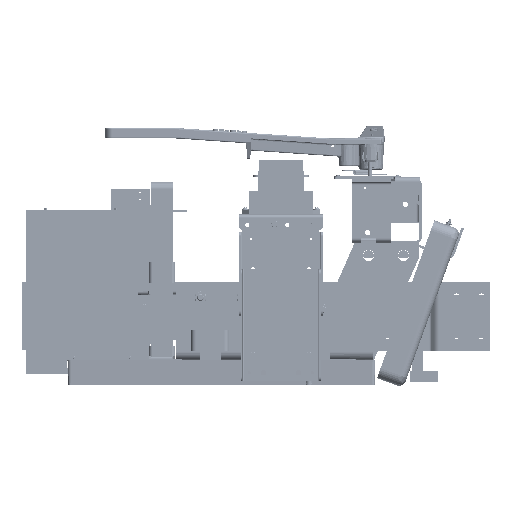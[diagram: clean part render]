
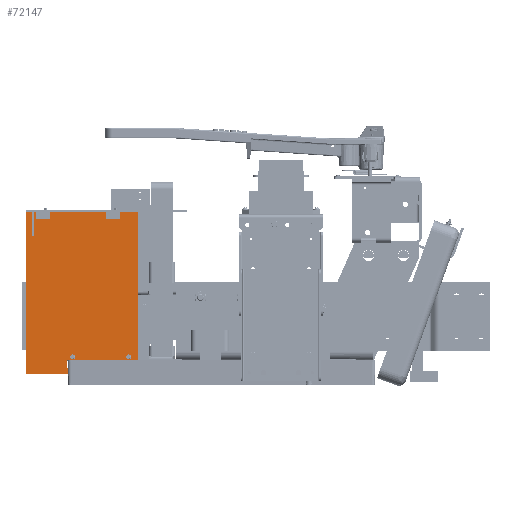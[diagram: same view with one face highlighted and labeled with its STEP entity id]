
A CAD part, left-side view. The second image highlights one B-rep face of the part: STEP entity #72147.
In plain terms, the highlighted planar face has unit normal (-1, 0, 0) as drawn and (0, 0, -1) by its records, which use the part's own axes.
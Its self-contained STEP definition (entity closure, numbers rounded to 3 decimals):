
#3792=FACE_BOUND('',#15250,.T.);
#3793=FACE_BOUND('',#15251,.T.);
#3794=FACE_BOUND('',#15252,.T.);
#3795=FACE_BOUND('',#15253,.T.);
#5844=CIRCLE('',#79320,0.097);
#5846=CIRCLE('',#79323,0.097);
#5848=CIRCLE('',#79326,0.097);
#5850=CIRCLE('',#79329,0.097);
#10712=FACE_OUTER_BOUND('',#15249,.T.);
#15249=EDGE_LOOP('',(#58011,#58012,#58013,#58014,#58015,#58016,#58017,#58018,
#58019,#58020,#58021,#58022));
#15250=EDGE_LOOP('',(#58023));
#15251=EDGE_LOOP('',(#58024));
#15252=EDGE_LOOP('',(#58025));
#15253=EDGE_LOOP('',(#58026));
#21061=LINE('',#121247,#27300);
#21065=LINE('',#121255,#27304);
#21068=LINE('',#121261,#27307);
#21071=LINE('',#121267,#27310);
#21074=LINE('',#121273,#27313);
#21077=LINE('',#121279,#27316);
#21080=LINE('',#121285,#27319);
#21083=LINE('',#121291,#27322);
#21086=LINE('',#121297,#27325);
#21089=LINE('',#121303,#27328);
#21092=LINE('',#121309,#27331);
#21095=LINE('',#121314,#27334);
#27300=VECTOR('',#93694,0.394);
#27304=VECTOR('',#93700,0.394);
#27307=VECTOR('',#93705,0.394);
#27310=VECTOR('',#93710,0.394);
#27313=VECTOR('',#93715,0.394);
#27316=VECTOR('',#93720,0.394);
#27319=VECTOR('',#93725,0.394);
#27322=VECTOR('',#93730,0.394);
#27325=VECTOR('',#93735,0.394);
#27328=VECTOR('',#93740,0.394);
#27331=VECTOR('',#93745,0.394);
#27334=VECTOR('',#93750,0.394);
#33730=VERTEX_POINT('',#121221);
#33732=VERTEX_POINT('',#121227);
#33734=VERTEX_POINT('',#121233);
#33736=VERTEX_POINT('',#121239);
#33738=VERTEX_POINT('',#121245);
#33739=VERTEX_POINT('',#121246);
#33742=VERTEX_POINT('',#121254);
#33744=VERTEX_POINT('',#121260);
#33746=VERTEX_POINT('',#121266);
#33748=VERTEX_POINT('',#121272);
#33750=VERTEX_POINT('',#121278);
#33752=VERTEX_POINT('',#121284);
#33754=VERTEX_POINT('',#121290);
#33756=VERTEX_POINT('',#121296);
#33758=VERTEX_POINT('',#121302);
#33760=VERTEX_POINT('',#121308);
#42239=EDGE_CURVE('',#33730,#33730,#5844,.T.);
#42242=EDGE_CURVE('',#33732,#33732,#5846,.T.);
#42245=EDGE_CURVE('',#33734,#33734,#5848,.T.);
#42248=EDGE_CURVE('',#33736,#33736,#5850,.T.);
#42251=EDGE_CURVE('',#33738,#33739,#21061,.T.);
#42255=EDGE_CURVE('',#33742,#33738,#21065,.T.);
#42258=EDGE_CURVE('',#33744,#33742,#21068,.T.);
#42261=EDGE_CURVE('',#33746,#33744,#21071,.T.);
#42264=EDGE_CURVE('',#33748,#33746,#21074,.T.);
#42267=EDGE_CURVE('',#33750,#33748,#21077,.T.);
#42270=EDGE_CURVE('',#33752,#33750,#21080,.T.);
#42273=EDGE_CURVE('',#33754,#33752,#21083,.T.);
#42276=EDGE_CURVE('',#33756,#33754,#21086,.T.);
#42279=EDGE_CURVE('',#33758,#33756,#21089,.T.);
#42282=EDGE_CURVE('',#33760,#33758,#21092,.T.);
#42285=EDGE_CURVE('',#33739,#33760,#21095,.T.);
#58011=ORIENTED_EDGE('',*,*,#42285,.F.);
#58012=ORIENTED_EDGE('',*,*,#42251,.F.);
#58013=ORIENTED_EDGE('',*,*,#42255,.F.);
#58014=ORIENTED_EDGE('',*,*,#42258,.F.);
#58015=ORIENTED_EDGE('',*,*,#42261,.F.);
#58016=ORIENTED_EDGE('',*,*,#42264,.F.);
#58017=ORIENTED_EDGE('',*,*,#42267,.F.);
#58018=ORIENTED_EDGE('',*,*,#42270,.F.);
#58019=ORIENTED_EDGE('',*,*,#42273,.F.);
#58020=ORIENTED_EDGE('',*,*,#42276,.F.);
#58021=ORIENTED_EDGE('',*,*,#42279,.F.);
#58022=ORIENTED_EDGE('',*,*,#42282,.F.);
#58023=ORIENTED_EDGE('',*,*,#42239,.T.);
#58024=ORIENTED_EDGE('',*,*,#42242,.T.);
#58025=ORIENTED_EDGE('',*,*,#42245,.T.);
#58026=ORIENTED_EDGE('',*,*,#42248,.T.);
#69016=PLANE('',#79344);
#72147=ADVANCED_FACE('',(#10712,#3792,#3793,#3794,#3795),#69016,.F.);
#79320=AXIS2_PLACEMENT_3D('',#121222,#93666,#93667);
#79323=AXIS2_PLACEMENT_3D('',#121228,#93673,#93674);
#79326=AXIS2_PLACEMENT_3D('',#121234,#93680,#93681);
#79329=AXIS2_PLACEMENT_3D('',#121240,#93687,#93688);
#79344=AXIS2_PLACEMENT_3D('',#121317,#93754,#93755);
#93666=DIRECTION('center_axis',(0.,0.,1.));
#93667=DIRECTION('ref_axis',(-1.,0.,0.));
#93673=DIRECTION('center_axis',(0.,0.,1.));
#93674=DIRECTION('ref_axis',(-1.,0.,0.));
#93680=DIRECTION('center_axis',(0.,0.,1.));
#93681=DIRECTION('ref_axis',(-1.,0.,0.));
#93687=DIRECTION('center_axis',(0.,0.,1.));
#93688=DIRECTION('ref_axis',(-1.,0.,0.));
#93694=DIRECTION('',(1.,0.,0.));
#93700=DIRECTION('',(0.,1.,0.));
#93705=DIRECTION('',(1.,0.,0.));
#93710=DIRECTION('',(0.,-1.,0.));
#93715=DIRECTION('',(-1.,0.,0.));
#93720=DIRECTION('',(0.,-1.,0.));
#93725=DIRECTION('',(1.,0.,0.));
#93730=DIRECTION('',(0.,-1.,0.));
#93735=DIRECTION('',(-1.,0.,0.));
#93740=DIRECTION('',(0.,1.,0.));
#93745=DIRECTION('',(1.,0.,0.));
#93750=DIRECTION('',(0.,-1.,0.));
#93754=DIRECTION('center_axis',(0.,0.,1.));
#93755=DIRECTION('ref_axis',(1.,0.,0.));
#121221=CARTESIAN_POINT('',(0.347,2.,0.));
#121222=CARTESIAN_POINT('Origin',(0.25,2.,0.));
#121227=CARTESIAN_POINT('',(0.347,7.,0.));
#121228=CARTESIAN_POINT('Origin',(0.25,7.,0.));
#121233=CARTESIAN_POINT('',(10.472,0.688,0.));
#121234=CARTESIAN_POINT('Origin',(10.375,0.688,0.));
#121239=CARTESIAN_POINT('',(10.472,4.688,0.));
#121240=CARTESIAN_POINT('Origin',(10.375,4.688,0.));
#121245=CARTESIAN_POINT('',(10.625,5.094,0.));
#121246=CARTESIAN_POINT('',(11.156,5.094,0.));
#121247=CARTESIAN_POINT('',(10.625,5.094,0.));
#121254=CARTESIAN_POINT('',(10.625,0.,0.));
#121255=CARTESIAN_POINT('',(10.625,0.,0.));
#121260=CARTESIAN_POINT('',(0.,0.,0.));
#121261=CARTESIAN_POINT('',(0.,0.,0.));
#121266=CARTESIAN_POINT('',(0.,7.422,0.));
#121267=CARTESIAN_POINT('',(0.,7.422,0.));
#121272=CARTESIAN_POINT('',(1.75,7.422,0.));
#121273=CARTESIAN_POINT('',(1.75,7.422,0.));
#121278=CARTESIAN_POINT('',(1.75,7.578,0.));
#121279=CARTESIAN_POINT('',(1.75,7.578,0.));
#121284=CARTESIAN_POINT('',(0.,7.578,0.));
#121285=CARTESIAN_POINT('',(0.,7.578,0.));
#121290=CARTESIAN_POINT('',(0.,8.,0.));
#121291=CARTESIAN_POINT('',(0.,8.,0.));
#121296=CARTESIAN_POINT('',(11.625,8.,0.));
#121297=CARTESIAN_POINT('',(11.625,8.,0.));
#121302=CARTESIAN_POINT('',(11.625,4.719,0.));
#121303=CARTESIAN_POINT('',(11.625,4.719,0.));
#121308=CARTESIAN_POINT('',(11.156,4.719,0.));
#121309=CARTESIAN_POINT('',(11.156,4.719,0.));
#121314=CARTESIAN_POINT('',(11.156,5.094,0.));
#121317=CARTESIAN_POINT('Origin',(5.401,4.41,0.));
